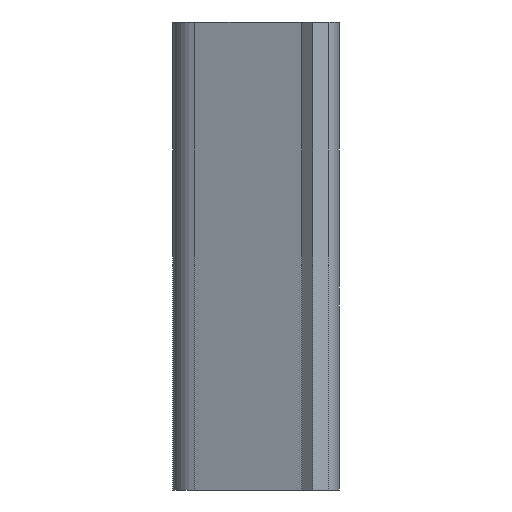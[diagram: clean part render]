
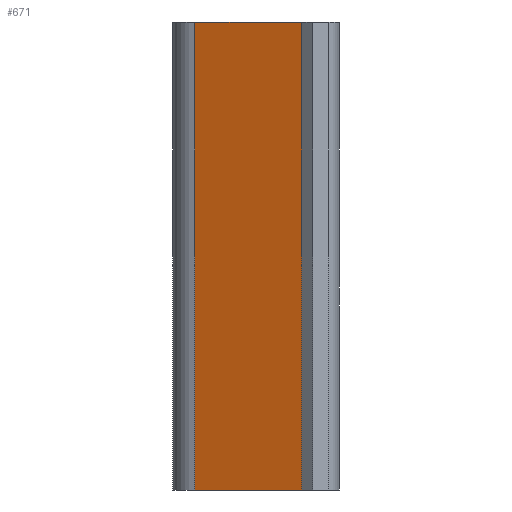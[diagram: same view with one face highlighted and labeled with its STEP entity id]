
A CAD part, left-side view. The second image highlights one B-rep face of the part: STEP entity #671.
In plain terms, the highlighted planar face has unit normal (-0.929, 0.369, 0).
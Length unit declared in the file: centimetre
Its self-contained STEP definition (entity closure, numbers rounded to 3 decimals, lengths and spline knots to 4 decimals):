
#38=PLANE('',#737);
#67=FACE_OUTER_BOUND('',#109,.T.);
#109=EDGE_LOOP('',(#546,#547,#548,#549));
#171=LINE('',#1114,#235);
#172=LINE('',#1118,#236);
#173=LINE('',#1120,#237);
#174=LINE('',#1121,#238);
#235=VECTOR('',#911,0.1);
#236=VECTOR('',#916,0.1);
#237=VECTOR('',#917,0.1);
#238=VECTOR('',#918,0.1);
#336=VERTEX_POINT('',#1111);
#337=VERTEX_POINT('',#1113);
#338=VERTEX_POINT('',#1117);
#339=VERTEX_POINT('',#1119);
#424=EDGE_CURVE('',#337,#336,#171,.T.);
#426=EDGE_CURVE('',#336,#338,#172,.T.);
#427=EDGE_CURVE('',#339,#338,#173,.T.);
#428=EDGE_CURVE('',#339,#337,#174,.T.);
#546=ORIENTED_EDGE('',*,*,#426,.T.);
#547=ORIENTED_EDGE('',*,*,#427,.F.);
#548=ORIENTED_EDGE('',*,*,#428,.T.);
#549=ORIENTED_EDGE('',*,*,#424,.T.);
#671=ADVANCED_FACE('',(#67),#38,.T.);
#737=AXIS2_PLACEMENT_3D('',#1116,#914,#915);
#911=DIRECTION('',(0.,0.,1.));
#914=DIRECTION('center_axis',(-0.929,0.369,0.));
#915=DIRECTION('ref_axis',(0.,0.,1.));
#916=DIRECTION('',(0.369,0.929,0.));
#917=DIRECTION('',(0.,0.,1.));
#918=DIRECTION('',(-0.369,-0.929,0.));
#1111=CARTESIAN_POINT('',(61.1581,36.3549,12.1));
#1113=CARTESIAN_POINT('',(61.1581,36.3549,0.));
#1114=CARTESIAN_POINT('',(61.1581,36.3549,0.));
#1116=CARTESIAN_POINT('Origin',(61.1581,36.3549,0.));
#1117=CARTESIAN_POINT('',(62.3572,39.372,12.1));
#1118=CARTESIAN_POINT('',(62.3572,39.372,12.1));
#1119=CARTESIAN_POINT('',(62.3572,39.372,0.));
#1120=CARTESIAN_POINT('',(62.3572,39.372,0.));
#1121=CARTESIAN_POINT('',(62.3572,39.372,0.));
